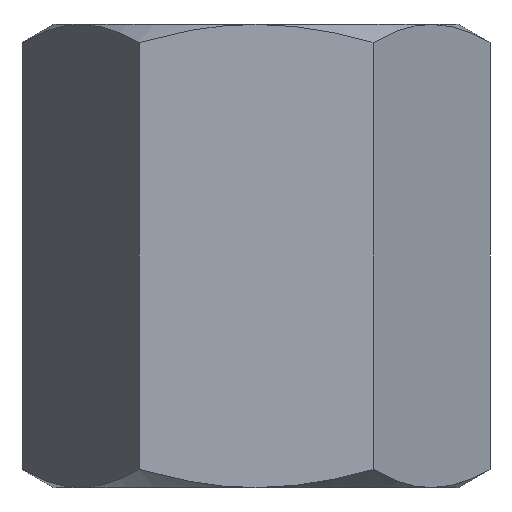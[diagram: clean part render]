
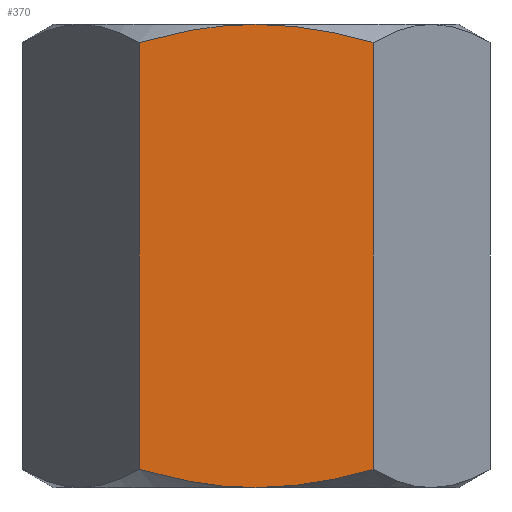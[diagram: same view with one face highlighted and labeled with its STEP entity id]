
A CAD part, front view. The second image highlights one B-rep face of the part: STEP entity #370.
In plain terms, the highlighted planar face has unit normal (0, -1, 0).
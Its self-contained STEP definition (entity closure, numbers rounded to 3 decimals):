
#9 = CARTESIAN_POINT ( 'NONE',  ( 1.362, -3.5, 3.861 ) ) ;
#10 = LINE ( 'NONE', #285, #780 ) ;
#20 = PLANE ( 'NONE',  #516 ) ;
#24 = LINE ( 'NONE', #760, #222 ) ;
#64 = CARTESIAN_POINT ( 'NONE',  ( -0.341, -3.5, -4. ) ) ;
#72 = CARTESIAN_POINT ( 'NONE',  ( -2.021, -3.5, 3.687 ) ) ;
#97 = ORIENTED_EDGE ( 'NONE', *, *, #351, .T. ) ;
#106 = CARTESIAN_POINT ( 'NONE',  ( -0.34, -3.5, 4. ) ) ;
#111 = CARTESIAN_POINT ( 'NONE',  ( 0., -3.5, -4. ) ) ;
#122 = CARTESIAN_POINT ( 'NONE',  ( 0., -3.5, 4. ) ) ;
#129 = ORIENTED_EDGE ( 'NONE', *, *, #841, .F. ) ;
#132 = CARTESIAN_POINT ( 'NONE',  ( -2.021, -3.5, -3.687 ) ) ;
#136 = CARTESIAN_POINT ( 'NONE',  ( -1.362, -3.5, -3.86 ) ) ;
#137 = CARTESIAN_POINT ( 'NONE',  ( 1.694, -3.5, 3.782 ) ) ;
#149 = CARTESIAN_POINT ( 'NONE',  ( 2.021, -3.5, -3.687 ) ) ;
#166 = B_SPLINE_CURVE_WITH_KNOTS ( 'NONE', 3,
 ( #652, #867, #386, #191, #106, #122 ),
 .UNSPECIFIED., .F., .F.,
 ( 4, 2, 4 ),
 ( 0.008, 0.009, 0.01 ),
 .UNSPECIFIED. ) ;
#169 = ORIENTED_EDGE ( 'NONE', *, *, #316, .F. ) ;
#191 = CARTESIAN_POINT ( 'NONE',  ( -0.679, -3.5, 3.971 ) ) ;
#204 = EDGE_CURVE ( 'NONE', #544, #878, #664, .T. ) ;
#222 = VECTOR ( 'NONE', #572, 1000. ) ;
#273 = CARTESIAN_POINT ( 'NONE',  ( 2.021, -3.5, 3.687 ) ) ;
#285 = CARTESIAN_POINT ( 'NONE',  ( -2.021, -3.5, -4. ) ) ;
#292 = EDGE_CURVE ( 'NONE', #580, #544, #462, .T. ) ;
#297 = DIRECTION ( 'NONE',  ( 1., 0., 0. ) ) ;
#316 = EDGE_CURVE ( 'NONE', #580, #616, #10, .T. ) ;
#317 = B_SPLINE_CURVE_WITH_KNOTS ( 'NONE', 3,
 ( #619, #747, #688, #9, #137, #548 ),
 .UNSPECIFIED., .F., .F.,
 ( 4, 2, 4 ),
 ( 0.01, 0.012, 0.013 ),
 .UNSPECIFIED. ) ;
#351 = EDGE_CURVE ( 'NONE', #878, #656, #24, .T. ) ;
#370 = ADVANCED_FACE ( 'NONE', ( #629 ), #20, .T. ) ;
#386 = CARTESIAN_POINT ( 'NONE',  ( -1.355, -3.5, 3.862 ) ) ;
#415 = DIRECTION ( 'NONE',  ( 0., 0., 1. ) ) ;
#462 = B_SPLINE_CURVE_WITH_KNOTS ( 'NONE', 3,
 ( #132, #491, #136, #485, #64, #622 ),
 .UNSPECIFIED., .F., .F.,
 ( 4, 2, 4 ),
 ( 0.006, 0.007, 0.008 ),
 .UNSPECIFIED. ) ;
#485 = CARTESIAN_POINT ( 'NONE',  ( -0.687, -3.5, -3.97 ) ) ;
#491 = CARTESIAN_POINT ( 'NONE',  ( -1.693, -3.5, -3.782 ) ) ;
#516 = AXIS2_PLACEMENT_3D ( 'NONE', #568, #696, #297 ) ;
#531 = VERTEX_POINT ( 'NONE', #723 ) ;
#544 = VERTEX_POINT ( 'NONE', #111 ) ;
#548 = CARTESIAN_POINT ( 'NONE',  ( 2.021, -3.5, 3.687 ) ) ;
#558 = EDGE_CURVE ( 'NONE', #531, #656, #317, .T. ) ;
#568 = CARTESIAN_POINT ( 'NONE',  ( -2.021, -3.5, -4. ) ) ;
#572 = DIRECTION ( 'NONE',  ( 0., 0., 1. ) ) ;
#580 = VERTEX_POINT ( 'NONE', #610 ) ;
#583 = ORIENTED_EDGE ( 'NONE', *, *, #204, .T. ) ;
#610 = CARTESIAN_POINT ( 'NONE',  ( -2.021, -3.5, -3.687 ) ) ;
#616 = VERTEX_POINT ( 'NONE', #72 ) ;
#619 = CARTESIAN_POINT ( 'NONE',  ( 0., -3.5, 4. ) ) ;
#622 = CARTESIAN_POINT ( 'NONE',  ( 0., -3.5, -4. ) ) ;
#629 = FACE_OUTER_BOUND ( 'NONE', #677, .T. ) ;
#652 = CARTESIAN_POINT ( 'NONE',  ( -2.021, -3.5, 3.687 ) ) ;
#656 = VERTEX_POINT ( 'NONE', #273 ) ;
#664 = B_SPLINE_CURVE_WITH_KNOTS ( 'NONE', 3,
 ( #673, #753, #824, #149 ),
 .UNSPECIFIED., .F., .F.,
 ( 4, 4 ),
 ( 0.008, 0.01 ),
 .UNSPECIFIED. ) ;
#673 = CARTESIAN_POINT ( 'NONE',  ( 0., -3.5, -4. ) ) ;
#677 = EDGE_LOOP ( 'NONE', ( #129, #169, #836, #583, #97, #732 ) ) ;
#688 = CARTESIAN_POINT ( 'NONE',  ( 0.681, -3.5, 3.971 ) ) ;
#696 = DIRECTION ( 'NONE',  ( 0., -1., 0. ) ) ;
#723 = CARTESIAN_POINT ( 'NONE',  ( 0., -3.5, 4. ) ) ;
#732 = ORIENTED_EDGE ( 'NONE', *, *, #558, .F. ) ;
#747 = CARTESIAN_POINT ( 'NONE',  ( 0.34, -3.5, 4. ) ) ;
#753 = CARTESIAN_POINT ( 'NONE',  ( 0.687, -3.5, -4. ) ) ;
#760 = CARTESIAN_POINT ( 'NONE',  ( 2.021, -3.5, -4. ) ) ;
#780 = VECTOR ( 'NONE', #415, 1000. ) ;
#824 = CARTESIAN_POINT ( 'NONE',  ( 1.359, -3.5, -3.879 ) ) ;
#836 = ORIENTED_EDGE ( 'NONE', *, *, #292, .T. ) ;
#841 = EDGE_CURVE ( 'NONE', #616, #531, #166, .T. ) ;
#857 = CARTESIAN_POINT ( 'NONE',  ( 2.021, -3.5, -3.687 ) ) ;
#867 = CARTESIAN_POINT ( 'NONE',  ( -1.692, -3.5, 3.782 ) ) ;
#878 = VERTEX_POINT ( 'NONE', #857 ) ;
